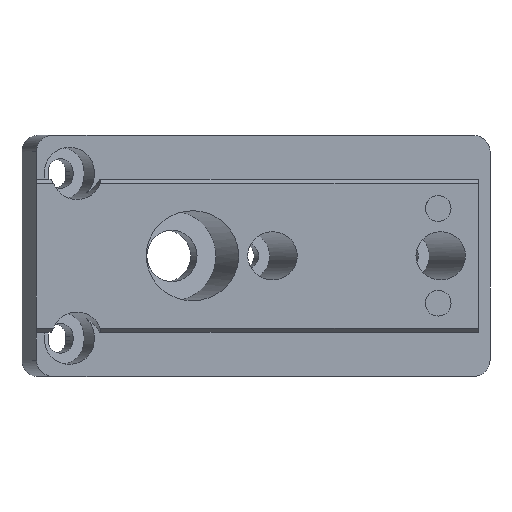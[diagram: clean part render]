
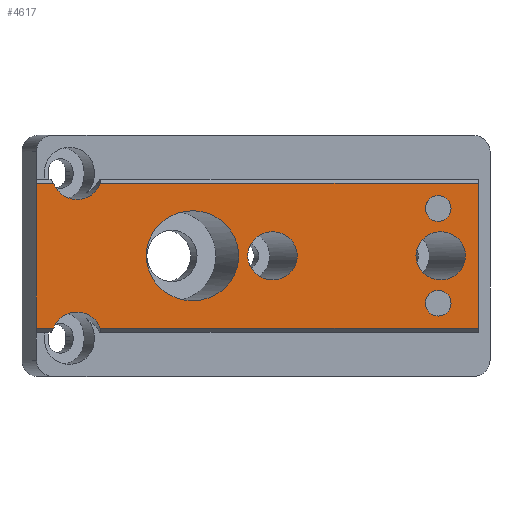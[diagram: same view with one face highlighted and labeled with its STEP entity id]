
A CAD part, top view. The second image highlights one B-rep face of the part: STEP entity #4617.
In plain terms, the highlighted planar face has unit normal (0, 0, 1).
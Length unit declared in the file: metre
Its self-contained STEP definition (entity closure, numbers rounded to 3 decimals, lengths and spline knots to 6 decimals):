
#210=ELLIPSE('',#4909,0.005747,0.0056);
#211=ELLIPSE('',#4910,0.003079,0.003);
#212=ELLIPSE('',#4911,0.003079,0.003);
#213=ELLIPSE('',#4914,0.003079,0.003);
#214=ELLIPSE('',#4915,0.003079,0.003);
#294=CIRCLE('',#4912,0.0016);
#295=CIRCLE('',#4913,0.0016);
#389=ORIENTED_EDGE('',*,*,#1791,.T.);
#390=ORIENTED_EDGE('',*,*,#1792,.T.);
#391=ORIENTED_EDGE('',*,*,#1793,.T.);
#392=ORIENTED_EDGE('',*,*,#1794,.T.);
#393=ORIENTED_EDGE('',*,*,#1795,.T.);
#394=ORIENTED_EDGE('',*,*,#1796,.F.);
#395=ORIENTED_EDGE('',*,*,#1797,.T.);
#396=ORIENTED_EDGE('',*,*,#1798,.F.);
#397=ORIENTED_EDGE('',*,*,#1799,.T.);
#398=ORIENTED_EDGE('',*,*,#1800,.F.);
#399=ORIENTED_EDGE('',*,*,#1801,.T.);
#400=ORIENTED_EDGE('',*,*,#1802,.T.);
#401=ORIENTED_EDGE('',*,*,#1803,.T.);
#1791=EDGE_CURVE('',#2492,#2492,#210,.T.);
#1792=EDGE_CURVE('',#2493,#2493,#211,.T.);
#1793=EDGE_CURVE('',#2494,#2494,#212,.T.);
#1794=EDGE_CURVE('',#2495,#2495,#294,.T.);
#1795=EDGE_CURVE('',#2496,#2496,#295,.T.);
#1796=EDGE_CURVE('',#2497,#2498,#213,.F.);
#1797=EDGE_CURVE('',#2497,#2499,#2945,.T.);
#1798=EDGE_CURVE('',#2500,#2499,#2946,.T.);
#1799=EDGE_CURVE('',#2500,#2501,#2947,.T.);
#1800=EDGE_CURVE('',#2502,#2501,#214,.F.);
#1801=EDGE_CURVE('',#2502,#2503,#2948,.T.);
#1802=EDGE_CURVE('',#2503,#2504,#2949,.T.);
#1803=EDGE_CURVE('',#2504,#2498,#2950,.T.);
#2492=VERTEX_POINT('',#6316);
#2493=VERTEX_POINT('',#6318);
#2494=VERTEX_POINT('',#6320);
#2495=VERTEX_POINT('',#6322);
#2496=VERTEX_POINT('',#6324);
#2497=VERTEX_POINT('',#6326);
#2498=VERTEX_POINT('',#6327);
#2499=VERTEX_POINT('',#6329);
#2500=VERTEX_POINT('',#6331);
#2501=VERTEX_POINT('',#6333);
#2502=VERTEX_POINT('',#6335);
#2503=VERTEX_POINT('',#6337);
#2504=VERTEX_POINT('',#6339);
#2945=LINE('',#6328,#3418);
#2946=LINE('',#6330,#3419);
#2947=LINE('',#6332,#3420);
#2948=LINE('',#6336,#3421);
#2949=LINE('',#6338,#3422);
#2950=LINE('',#6340,#3423);
#3418=VECTOR('',#5257,1.);
#3419=VECTOR('',#5258,1.);
#3420=VECTOR('',#5259,1.);
#3421=VECTOR('',#5262,1.);
#3422=VECTOR('',#5263,1.);
#3423=VECTOR('',#5264,1.);
#3878=EDGE_LOOP('',(#389));
#3879=EDGE_LOOP('',(#390));
#3880=EDGE_LOOP('',(#391));
#3881=EDGE_LOOP('',(#392));
#3882=EDGE_LOOP('',(#393));
#3883=EDGE_LOOP('',(#394,#395,#396,#397,#398,#399,#400,#401));
#4175=FACE_BOUND('',#3878,.T.);
#4176=FACE_BOUND('',#3879,.T.);
#4177=FACE_BOUND('',#3880,.T.);
#4178=FACE_BOUND('',#3881,.T.);
#4179=FACE_BOUND('',#3882,.T.);
#4180=FACE_BOUND('',#3883,.T.);
#4464=PLANE('',#4908);
#4617=ADVANCED_FACE('',(#4175,#4176,#4177,#4178,#4179,#4180),#4464,.F.);
#4908=AXIS2_PLACEMENT_3D('',#6314,#5243,#5244);
#4909=AXIS2_PLACEMENT_3D('',#6315,#5245,#5246);
#4910=AXIS2_PLACEMENT_3D('',#6317,#5247,#5248);
#4911=AXIS2_PLACEMENT_3D('',#6319,#5249,#5250);
#4912=AXIS2_PLACEMENT_3D('',#6321,#5251,#5252);
#4913=AXIS2_PLACEMENT_3D('',#6323,#5253,#5254);
#4914=AXIS2_PLACEMENT_3D('',#6325,#5255,#5256);
#4915=AXIS2_PLACEMENT_3D('',#6334,#5260,#5261);
#5243=DIRECTION('',(0.,0.,-1.));
#5244=DIRECTION('',(-1.,0.,0.));
#5245=DIRECTION('',(0.,0.,-1.));
#5246=DIRECTION('',(-1.,0.,0.));
#5247=DIRECTION('',(0.,0.,-1.));
#5248=DIRECTION('',(-1.,0.,0.));
#5249=DIRECTION('',(0.,0.,-1.));
#5250=DIRECTION('',(-1.,0.,0.));
#5251=DIRECTION('',(0.,0.,-1.));
#5252=DIRECTION('',(-1.,0.,0.));
#5253=DIRECTION('',(0.,0.,-1.));
#5254=DIRECTION('',(-1.,0.,0.));
#5255=DIRECTION('',(0.,0.,-1.));
#5256=DIRECTION('',(-1.,0.,0.));
#5257=DIRECTION('',(1.,0.,0.));
#5258=DIRECTION('',(0.,-1.,0.));
#5259=DIRECTION('',(-1.,0.,0.));
#5260=DIRECTION('',(0.,0.,-1.));
#5261=DIRECTION('',(-1.,0.,0.));
#5262=DIRECTION('',(-1.,0.,0.));
#5263=DIRECTION('',(0.,-1.,0.));
#5264=DIRECTION('',(1.,0.,0.));
#6314=CARTESIAN_POINT('',(0.055,0.,0.0041));
#6315=CARTESIAN_POINT('',(0.01942,0.,0.0041));
#6316=CARTESIAN_POINT('',(0.013673,0.,0.0041));
#6317=CARTESIAN_POINT('',(0.050312,0.,0.0041));
#6318=CARTESIAN_POINT('',(0.047233,0.,0.0041));
#6319=CARTESIAN_POINT('',(0.029375,0.,0.0041));
#6320=CARTESIAN_POINT('',(0.026296,0.,0.0041));
#6321=CARTESIAN_POINT('',(0.05,0.0059,0.0041));
#6322=CARTESIAN_POINT('',(0.0484,0.0059,0.0041));
#6323=CARTESIAN_POINT('',(0.05,-0.0059,0.0041));
#6324=CARTESIAN_POINT('',(0.0484,-0.0059,0.0041));
#6325=CARTESIAN_POINT('',(0.005052,-0.01,0.0041));
#6326=CARTESIAN_POINT('',(0.007956,-0.009004,0.0041));
#6327=CARTESIAN_POINT('',(0.002147,-0.009004,0.0041));
#6328=CARTESIAN_POINT('',(0.055,-0.009004,0.0041));
#6329=CARTESIAN_POINT('',(0.055,-0.009004,0.0041));
#6330=CARTESIAN_POINT('',(0.055,0.,0.0041));
#6331=CARTESIAN_POINT('',(0.055,0.009004,0.0041));
#6332=CARTESIAN_POINT('',(0.,0.009004,0.0041));
#6333=CARTESIAN_POINT('',(0.007956,0.009004,0.0041));
#6334=CARTESIAN_POINT('',(0.005052,0.01,0.0041));
#6335=CARTESIAN_POINT('',(0.002147,0.009004,0.0041));
#6336=CARTESIAN_POINT('',(0.,0.009004,0.0041));
#6337=CARTESIAN_POINT('',(0.,0.009004,0.0041));
#6338=CARTESIAN_POINT('',(0.,0.,0.0041));
#6339=CARTESIAN_POINT('',(0.,-0.009004,0.0041));
#6340=CARTESIAN_POINT('',(0.055,-0.009004,0.0041));
